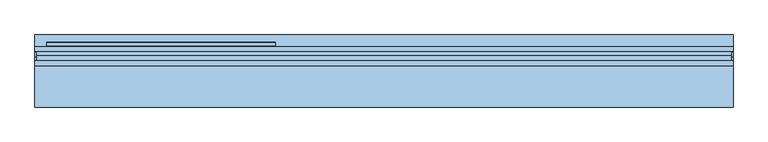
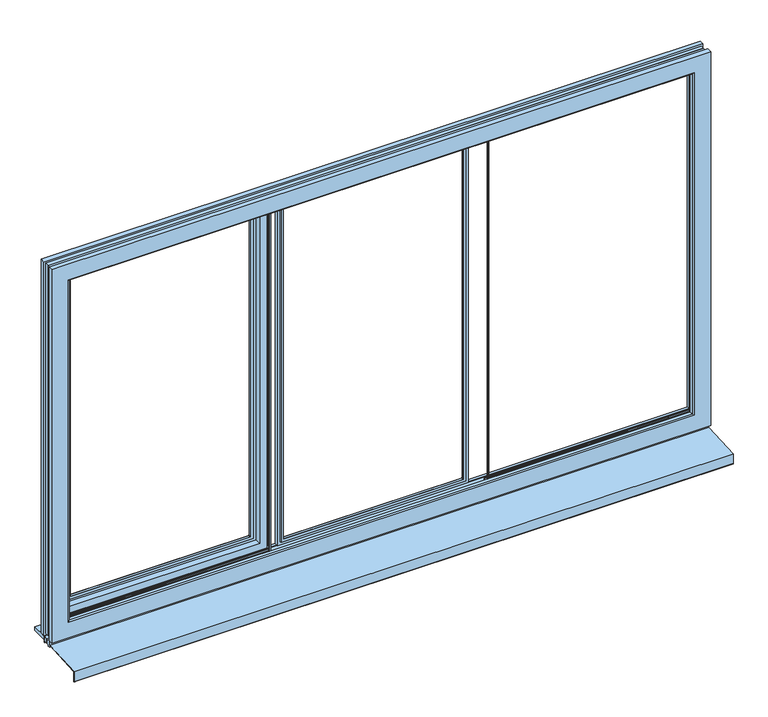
"""IFC4 building model written with IfcOpenShell, lengths in millimetres: window geometry, BZ1_Windows_Opening-Hinge_S9000_Three-Piece-Window-Turn-Tilt : Windows_Opening-Hinge_S9000_Three-Piece-Window-Turn-Tilt."""

from ifc_helpers import new_model, si_unit, point, frame, frame_2d, origin, place, context, project, spatial, polyline, circle_curve, ellipse_curve, trimmed, segment, composite_curve, outline, extrude, faceted_brep, source, transform, mapped, element, save
from ifc_brep_helpers import plane_surface, cylinder_surface, advanced_brep


def window_6c88f6a3(model_context):
    return source(origin(), model_context, "Body", "SolidModel", [
        advanced_brep(
        [(-1394.0, 107.25, 2563.9999996), (-1394.0, 107.25, 975.9999996), (-1394.0, 118.5, 975.9999996), (-1394.0, 118.5, 2563.9999996), (-1398.1, 77.5, 2568.0999996), (-1398.1, 77.5, 971.8999996), (-1398.1, 107.25, 971.8999996), (-1398.1, 107.25, 2568.0999996), (-1430.0, 103.5, 2599.9999996), (-1430.0, 103.5, 939.9999996), (-1430.0, 77.5, 939.9999996), (-1430.0, 77.5, 2599.9999996), (-1450.0, 116.0, 2619.9999996), (-1450.0, 116.0, 919.9999996), (-1450.0, 103.5, 919.9999996), (-1450.0, 103.5, 2619.9999996), (-1447.5, 118.5, 2617.4999996), (-1447.5, 118.5, 922.4999996), (-523.4, 107.25, 975.9999996), (-523.4, 118.5, 975.9999996), (-519.3, 77.5, 971.8999996), (-519.3, 107.25, 971.8999996), (-487.4, 103.5, 939.9999996), (-487.4, 77.5, 939.9999996), (-467.4, 116.0, 919.9999996), (-467.4, 103.5, 919.9999996), (-469.9, 118.5, 922.4999996), (-523.4, 107.25, 2563.9999996), (-523.4, 118.5, 2563.9999996), (-519.3, 77.5, 2568.0999996), (-519.3, 107.25, 2568.0999996), (-487.4, 103.5, 2599.9999996), (-487.4, 77.5, 2599.9999996), (-467.4, 116.0, 2619.9999996), (-467.4, 103.5, 2619.9999996), (-469.9, 118.5, 2617.4999996)],
        [
            (0, 1),
            (1, 2),
            (2, 3),
            (3, 0),
            (4, 5),
            (5, 6),
            (6, 7),
            (7, 4),
            (8, 9),
            (9, 10),
            (10, 11),
            (11, 8),
            (12, 13),
            (13, 14),
            (14, 15),
            (15, 12),
            (16, 17),
            (17, 13, ellipse_curve(frame((-1447.5, 116.0, 922.4999996), z_axis=(-0.7071067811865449, 0.0, 0.70710678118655), x_axis=(0.7071067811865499, 0.0, 0.707106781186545)), 3.5355339, 2.5)),
            (12, 16, ellipse_curve(frame((-1447.5, 116.0, 2617.4999996), z_axis=(-0.707106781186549, 0.0, -0.7071067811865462), x_axis=(-0.7071067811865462, 0.0, 0.7071067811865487)), 3.5355339, 2.5)),
            (1, 18),
            (18, 19),
            (19, 2),
            (5, 20),
            (20, 21),
            (21, 6),
            (9, 22),
            (22, 23),
            (23, 10),
            (13, 24),
            (24, 25),
            (25, 14),
            (17, 26),
            (26, 24, ellipse_curve(frame((-469.9, 116.0, 922.4999996), z_axis=(-0.7071067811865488, 0.0, -0.7071067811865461), x_axis=(-0.7071067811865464, 0.0, 0.7071067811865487)), 3.5355339, 2.5)),
            (18, 27),
            (27, 28),
            (28, 19),
            (20, 29),
            (29, 30),
            (30, 21),
            (22, 31),
            (31, 32),
            (32, 23),
            (24, 33),
            (33, 34),
            (34, 25),
            (26, 35),
            (35, 33, ellipse_curve(frame((-469.9, 116.0, 2617.4999996), z_axis=(0.7071067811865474, 0.0, -0.7071067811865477), x_axis=(-0.7071067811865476, 0.0, -0.7071067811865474)), 3.5355339, 2.5)),
            (16, 35),
            (28, 3),
            (27, 0),
            (30, 7),
            (29, 4),
            (32, 11),
            (31, 8),
            (34, 15),
            (33, 12),
        ],
        [
            plane_surface(frame((-1394.0, 118.5, 2563.9999996), z_axis=(1.0, 0.0, 0.0), x_axis=(0.0, 0.0, -1.0))),
            plane_surface(frame((-1398.1, 107.25, 2568.0999996), z_axis=(1.0, 0.0, 0.0), x_axis=(0.0, 0.0, -1.0))),
            plane_surface(frame((-1430.0, 77.5, 2599.9999996), z_axis=(-1.0, 0.0, 0.0), x_axis=(0.0, 0.0, -1.0))),
            plane_surface(frame((-1450.0, 103.5, 2619.9999996), z_axis=(-1.0, 0.0, 0.0), x_axis=(0.0, 0.0, -1.0))),
            cylinder_surface(frame((-1447.5, 116.0, 2619.9999996), z_axis=(0.0, 0.0, 1.0), x_axis=(0.0, 1.0, 0.0)), 2.5),
            plane_surface(frame((-1394.0, 118.5, 975.9999996), z_axis=(0.0, 0.0, 1.0), x_axis=(1.0, 0.0, 0.0))),
            plane_surface(frame((-1398.1, 107.25, 971.8999996), z_axis=(0.0, 0.0, 1.0), x_axis=(1.0, 0.0, 0.0))),
            plane_surface(frame((-1430.0, 77.5, 939.9999996), z_axis=(0.0, 0.0, -1.0), x_axis=(1.0, 0.0, 0.0))),
            plane_surface(frame((-1450.0, 103.5, 919.9999996), z_axis=(0.0, 0.0, -1.0), x_axis=(1.0, 0.0, 0.0))),
            cylinder_surface(frame((-1450.0, 116.0, 922.4999996), z_axis=(-1.0, 0.0, 0.0), x_axis=(0.0, 1.0, 0.0)), 2.5),
            plane_surface(frame((-523.4, 118.5, 975.9999996), z_axis=(-1.0, 0.0, 0.0), x_axis=(0.0, 0.0, 1.0))),
            plane_surface(frame((-519.3, 107.25, 971.8999996), z_axis=(-1.0, 0.0, 0.0), x_axis=(0.0, 0.0, 1.0))),
            plane_surface(frame((-487.4, 77.5, 939.9999996), z_axis=(1.0, 0.0, 0.0), x_axis=(0.0, 0.0, 1.0))),
            plane_surface(frame((-467.4, 103.5, 919.9999996), z_axis=(1.0, 0.0, 0.0), x_axis=(0.0, 0.0, 1.0))),
            cylinder_surface(frame((-469.9, 116.0, 919.9999996), z_axis=(0.0, 0.0, -1.0), x_axis=(0.0, 1.0, 0.0)), 2.5),
            plane_surface(frame((-469.9, 118.5, 2617.4999996), z_axis=(0.0, 1.0, 0.0), x_axis=(-1.0, 0.0, 0.0))),
            plane_surface(frame((-523.4, 118.5, 2563.9999996), z_axis=(0.0, 0.0, -1.0), x_axis=(-1.0, 0.0, 0.0))),
            plane_surface(frame((-523.4, 107.25, 2563.9999996), z_axis=(0.0, -1.0, 0.0), x_axis=(-1.0, 0.0, 0.0))),
            plane_surface(frame((-519.3, 107.25, 2568.0999996), z_axis=(0.0, 0.0, -1.0), x_axis=(-1.0, 0.0, 0.0))),
            plane_surface(frame((-519.3, 77.5, 2568.0999996), z_axis=(0.0, -1.0, 0.0), x_axis=(-1.0, 0.0, 0.0))),
            plane_surface(frame((-487.4, 77.5, 2599.9999996), z_axis=(0.0, 0.0, 1.0), x_axis=(-1.0, 0.0, 0.0))),
            plane_surface(frame((-468.4, 103.5, 2618.9999996), z_axis=(0.0, -1.0, 0.0), x_axis=(-1.0, 0.0, 0.0))),
            plane_surface(frame((-467.4, 103.5, 2619.9999996), z_axis=(0.0, 0.0, 1.0), x_axis=(-1.0, 0.0, 0.0))),
            cylinder_surface(frame((-467.4, 116.0, 2617.4999996), z_axis=(1.0, 0.0, 0.0), x_axis=(0.0, 1.0, 0.0)), 2.5),
        ],
        [
            (0, [[1, 2, 3, 4]]),
            (1, [[5, 6, 7, 8]]),
            (2, [[9, 10, 11, 12]]),
            (3, [[13, 14, 15, 16]]),
            (4, [[17, 18, -13, 19]]),
            (5, [[20, 21, 22, -2]]),
            (6, [[23, 24, 25, -6]]),
            (7, [[26, 27, 28, -10]]),
            (8, [[29, 30, 31, -14]]),
            (9, [[32, 33, -29, -18]]),
            (10, [[34, 35, 36, -21]]),
            (11, [[37, 38, 39, -24]]),
            (12, [[40, 41, 42, -27]]),
            (13, [[43, 44, 45, -30]]),
            (14, [[46, 47, -43, -33]]),
            (15, [[-17, 48, -46, -32], [-3, -22, -36, 49]]),
            (16, [[50, -4, -49, -35]]),
            (17, [[-7, -25, -39, 51], [-1, -50, -34, -20]]),
            (18, [[52, -8, -51, -38]]),
            (19, [[-11, -28, -42, 53], [-5, -52, -37, -23]]),
            (20, [[54, -12, -53, -41]]),
            (21, [[-15, -31, -45, 55], [-9, -54, -40, -26]]),
            (22, [[56, -16, -55, -44]]),
            (23, [[-48, -19, -56, -47]]),
        ],
    ),
        advanced_brep(
        [(-1371.8959832, 112.5529143, 2541.8959828), (-1371.8959832, 112.5529143, 998.1040164), (-1377.6915381, 117.0, 992.3084614), (-1377.6915381, 117.0, 2547.6915377), (-1368.0012172, 98.0174497, 2538.0012168), (-1368.0012172, 98.0174497, 1001.9987824), (-1368.0012172, 96.5, 2538.0012168), (-1368.0012172, 96.5, 1001.9987824), (-1381.1432253, 101.5, 2551.1432248), (-1381.1432253, 101.5, 988.8567743), (-1379.8034793, 96.5, 990.1965203), (-1379.8034793, 96.5, 2549.8034789), (-1394.0, 101.5, 2563.9999996), (-1394.0, 117.0, 2563.9999996), (-1394.0, 117.0, 975.9999996), (-1394.0, 101.5, 975.9999996), (-545.5040168, 112.5529143, 998.1040164), (-539.7084619, 117.0, 992.3084614), (-549.3987828, 98.0174497, 1001.9987824), (-549.3987828, 96.5, 1001.9987824), (-536.2567747, 101.5, 988.8567743), (-537.5965207, 96.5, 990.1965203), (-523.4, 117.0, 975.9999996), (-523.4, 101.5, 975.9999996), (-545.5040168, 112.5529143, 2541.8959828), (-539.7084619, 117.0, 2547.6915377), (-549.3987828, 98.0174497, 2538.0012168), (-549.3987828, 96.5, 2538.0012168), (-536.2567747, 101.5, 2551.1432248), (-537.5965207, 96.5, 2549.8034789), (-523.4, 117.0, 2563.9999996), (-523.4, 101.5, 2563.9999996)],
        [
            (0, 1),
            (1, 2, ellipse_curve(frame((-1377.6915381, 111.0, 992.3084614), z_axis=(-0.7071067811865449, 0.0, 0.70710678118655), x_axis=(0.7071067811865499, 0.0, 0.707106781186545)), 8.4852814, 6.0)),
            (2, 3),
            (3, 0, ellipse_curve(frame((-1377.6915381, 111.0, 2547.6915377), z_axis=(-0.707106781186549, 0.0, -0.7071067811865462), x_axis=(-0.7071067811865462, 0.0, 0.7071067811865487)), 8.4852814, 6.0)),
            (4, 5),
            (5, 1),
            (0, 4),
            (6, 7),
            (7, 5),
            (4, 6),
            (8, 9),
            (9, 10),
            (10, 11),
            (11, 8),
            (12, 13),
            (13, 14),
            (14, 15),
            (15, 12),
            (1, 16),
            (16, 17, ellipse_curve(frame((-539.7084619, 111.0, 992.3084614), z_axis=(-0.7071067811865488, 0.0, -0.7071067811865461), x_axis=(-0.7071067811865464, 0.0, 0.7071067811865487)), 8.4852814, 6.0)),
            (17, 2),
            (5, 18),
            (18, 16),
            (7, 19),
            (19, 18),
            (9, 20),
            (20, 21),
            (21, 10),
            (14, 22),
            (22, 23),
            (23, 15),
            (16, 24),
            (24, 25, ellipse_curve(frame((-539.7084619, 111.0, 2547.6915377), z_axis=(0.7071067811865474, 0.0, -0.7071067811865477), x_axis=(-0.7071067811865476, 0.0, -0.7071067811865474)), 8.4852814, 6.0)),
            (25, 17),
            (18, 26),
            (26, 24),
            (19, 27),
            (27, 26),
            (20, 28),
            (28, 29),
            (29, 21),
            (22, 30),
            (30, 31),
            (31, 23),
            (24, 0),
            (3, 25),
            (26, 4),
            (27, 6),
            (29, 11),
            (28, 8),
            (31, 12),
            (30, 13),
        ],
        [
            cylinder_surface(frame((-1377.6915381, 111.0, 2619.9999996), z_axis=(0.0, 0.0, 1.0), x_axis=(0.9659258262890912, 0.2588190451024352, 0.0)), 6.0),
            plane_surface(frame((-1371.8959832, 112.5529143, 2541.8959828), z_axis=(0.9659258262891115, 0.25881904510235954, 0.0), x_axis=(0.0, 0.0, -1.0))),
            plane_surface(frame((-1368.0012172, 98.0174497, 2538.0012168), z_axis=(1.0, 0.0, 0.0), x_axis=(0.0, 0.0, -1.0))),
            plane_surface(frame((-1379.8034793, 96.5, 2549.8034789), z_axis=(-0.9659258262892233, -0.2588190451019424, 0.0), x_axis=(0.0, 0.0, -1.0))),
            plane_surface(frame((-1394.0, 116.0, 2563.9999996), z_axis=(-1.0, 0.0, 0.0), x_axis=(0.0, 0.0, -1.0))),
            cylinder_surface(frame((-1450.0, 111.0, 992.3084614), z_axis=(-1.0, 0.0, 0.0), x_axis=(0.0, 0.2588190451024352, 0.9659258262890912)), 6.0),
            plane_surface(frame((-1371.8959832, 112.5529143, 998.1040164), z_axis=(0.0, 0.25881904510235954, 0.9659258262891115), x_axis=(1.0, 0.0, 0.0))),
            plane_surface(frame((-1368.0012172, 98.0174497, 1001.9987824), z_axis=(0.0, 0.0, 1.0), x_axis=(1.0, 0.0, 0.0))),
            plane_surface(frame((-1379.8034793, 96.5, 990.1965203), z_axis=(0.0, -0.2588190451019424, -0.9659258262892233), x_axis=(1.0, 0.0, 0.0))),
            plane_surface(frame((-1394.0, 116.0, 975.9999996), z_axis=(0.0, 0.0, -1.0), x_axis=(1.0, 0.0, 0.0))),
            cylinder_surface(frame((-539.7084619, 111.0, 919.9999996), z_axis=(0.0, 0.0, -1.0), x_axis=(-0.9659258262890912, 0.2588190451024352, 0.0)), 6.0),
            plane_surface(frame((-545.5040168, 112.5529143, 998.1040164), z_axis=(-0.9659258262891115, 0.25881904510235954, 0.0), x_axis=(0.0, 0.0, 1.0))),
            plane_surface(frame((-549.3987828, 98.0174497, 1001.9987824), z_axis=(-1.0, 0.0, 0.0), x_axis=(0.0, 0.0, 1.0))),
            plane_surface(frame((-537.5965207, 96.5, 990.1965203), z_axis=(0.9659258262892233, -0.2588190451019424, 0.0), x_axis=(0.0, 0.0, 1.0))),
            plane_surface(frame((-523.4, 116.0, 975.9999996), z_axis=(1.0, 0.0, 0.0), x_axis=(0.0, 0.0, 1.0))),
            cylinder_surface(frame((-467.4, 111.0, 2547.6915377), z_axis=(1.0, 0.0, 0.0), x_axis=(0.0, 0.2588190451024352, -0.9659258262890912)), 6.0),
            plane_surface(frame((-545.5040168, 112.5529143, 2541.8959828), z_axis=(0.0, 0.25881904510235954, -0.9659258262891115), x_axis=(-1.0, 0.0, 0.0))),
            plane_surface(frame((-549.3987828, 98.0174497, 2538.0012168), z_axis=(0.0, 0.0, -1.0), x_axis=(-1.0, 0.0, 0.0))),
            plane_surface(frame((-549.3987828, 96.5, 2538.0012168), z_axis=(0.0, -1.0, 0.0), x_axis=(-1.0, 0.0, 0.0))),
            plane_surface(frame((-537.5965207, 96.5, 2549.8034789), z_axis=(0.0, -0.2588190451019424, 0.9659258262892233), x_axis=(-1.0, 0.0, 0.0))),
            plane_surface(frame((-536.2567747, 101.5, 2551.1432248), z_axis=(0.0, -1.0, 0.0), x_axis=(-1.0, 0.0, 0.0))),
            plane_surface(frame((-523.4, 116.0, 2563.9999996), z_axis=(0.0, 0.0, 1.0), x_axis=(-1.0, 0.0, 0.0))),
            plane_surface(frame((-523.4, 117.0, 2563.9999996), z_axis=(0.0, 1.0, 0.0), x_axis=(-1.0, 0.0, 0.0))),
        ],
        [
            (0, [[1, 2, 3, 4]]),
            (1, [[5, 6, -1, 7]]),
            (2, [[8, 9, -5, 10]]),
            (3, [[11, 12, 13, 14]]),
            (4, [[15, 16, 17, 18]]),
            (5, [[19, 20, 21, -2]]),
            (6, [[22, 23, -19, -6]]),
            (7, [[24, 25, -22, -9]]),
            (8, [[26, 27, 28, -12]]),
            (9, [[29, 30, 31, -17]]),
            (10, [[32, 33, 34, -20]]),
            (11, [[35, 36, -32, -23]]),
            (12, [[37, 38, -35, -25]]),
            (13, [[39, 40, 41, -27]]),
            (14, [[42, 43, 44, -30]]),
            (15, [[45, -4, 46, -33]]),
            (16, [[47, -7, -45, -36]]),
            (17, [[48, -10, -47, -38]]),
            (18, [[-13, -28, -41, 49], [-8, -48, -37, -24]]),
            (19, [[50, -14, -49, -40]]),
            (20, [[-18, -31, -44, 51], [-11, -50, -39, -26]]),
            (21, [[52, -15, -51, -43]]),
            (22, [[-16, -52, -42, -29], [-3, -21, -34, -46]]),
        ],
    ),
        extrude(outline(polyline([(34.0, 840.0), (34.0, 870.0), (55.0, 870.0), (55.0, 848.0), (43.25, 848.0), (43.25, 840.0), (34.0, 840.0)])), frame((-1500.0, 0.0, 0.0), z_axis=(1.0, 0.0, 0.0), x_axis=(0.0, 1.0, 0.0)), (0.0, 0.0, 1.0), 3000.0),
        extrude(outline(polyline([(71.75, 840.0), (71.75, 848.0), (55.0, 848.0), (55.0, 870.0), (75.5, 870.0), (75.5, 840.0), (71.75, 840.0)])), frame((-1500.0, 0.0, 0.0), z_axis=(1.0, 0.0, 0.0), x_axis=(0.0, 1.0, 0.0)), (0.0, 0.0, 1.0), 3000.0),
        advanced_brep(
        [(1416.0, 31.47229, 2586.0), (1416.0, 31.47229, 954.0), (1418.5522708, 21.9470857, 951.4477292), (1418.5522708, 21.9470857, 2588.5522708), (1416.0, 32.5, 2586.0), (1416.0, 32.5, 954.0), (1446.1, 46.5113286, 2616.1), (1446.1, 46.5113286, 923.9), (1449.0781998, 32.5, 920.9218002), (1449.0781998, 32.5, 2619.0781998), (1446.1, 60.0, 2616.1), (1446.1, 60.0, 923.9), (1492.0, 38.5, 2662.0), (1492.0, 38.5, 878.0), (1492.0, 60.0, 878.0), (1492.0, 60.0, 2662.0), (1500.0, 17.5, 2670.0), (1500.0, 17.5, 870.0), (1500.0, 38.5, 870.0), (1500.0, 38.5, 2670.0), (1424.3478258, 17.5, 945.6521742), (1424.3478258, 17.5, 2594.3478258), (-1416.0, 31.47229, 954.0), (-1418.5522708, 21.9470857, 951.4477292), (-1416.0, 32.5, 954.0), (-1446.1, 46.5113286, 923.9), (-1449.0781998, 32.5, 920.9218002), (-1446.1, 60.0, 923.9), (-1492.0, 38.5, 878.0), (-1492.0, 60.0, 878.0), (-1500.0, 17.5, 870.0), (-1500.0, 38.5, 870.0), (-1424.3478258, 17.5, 945.6521742), (-1416.0, 31.47229, 2586.0), (-1418.5522708, 21.9470857, 2588.5522708), (-1416.0, 32.5, 2586.0), (-1446.1, 46.5113286, 2616.1), (-1449.0781998, 32.5, 2619.0781998), (-1446.1, 60.0, 2616.1), (-1492.0, 38.5, 2662.0), (-1492.0, 60.0, 2662.0), (-1500.0, 17.5, 2670.0), (-1500.0, 38.5, 2670.0), (-1424.3478258, 17.5, 2594.3478258)],
        [
            (0, 1),
            (1, 2),
            (2, 3),
            (3, 0),
            (4, 5),
            (5, 1),
            (0, 4),
            (6, 7),
            (7, 8),
            (8, 9),
            (9, 6),
            (10, 11),
            (11, 7),
            (6, 10),
            (12, 13),
            (13, 14),
            (14, 15),
            (15, 12),
            (16, 17),
            (17, 18),
            (18, 19),
            (19, 16),
            (2, 20, ellipse_curve(frame((1424.3478258, 23.5, 945.6521742), z_axis=(0.7071067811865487, 0.0, 0.7071067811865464), x_axis=(-0.7071067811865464, 0.0, 0.7071067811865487)), 8.4852814, 6.0)),
            (20, 21),
            (21, 3, ellipse_curve(frame((1424.3478258, 23.5, 2594.3478258), z_axis=(0.7071067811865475, 0.0, -0.7071067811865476), x_axis=(0.7071067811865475, 0.0, 0.7071067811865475)), 8.4852814, 6.0)),
            (1, 22),
            (22, 23),
            (23, 2),
            (5, 24),
            (24, 22),
            (7, 25),
            (25, 26),
            (26, 8),
            (11, 27),
            (27, 25),
            (13, 28),
            (28, 29),
            (29, 14),
            (17, 30),
            (30, 31),
            (31, 18),
            (23, 32, ellipse_curve(frame((-1424.3478258, 23.5, 945.6521742), z_axis=(0.7071067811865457, 0.0, -0.7071067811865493), x_axis=(0.7071067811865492, 0.0, 0.7071067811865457)), 8.4852814, 6.0)),
            (32, 20),
            (22, 33),
            (33, 34),
            (34, 23),
            (24, 35),
            (35, 33),
            (25, 36),
            (36, 37),
            (37, 26),
            (27, 38),
            (38, 36),
            (28, 39),
            (39, 40),
            (40, 29),
            (30, 41),
            (41, 42),
            (42, 31),
            (34, 43, ellipse_curve(frame((-1424.3478258, 23.5, 2594.3478258), z_axis=(-0.7071067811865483, 0.0, -0.7071067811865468), x_axis=(0.7071067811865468, 0.0, -0.7071067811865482)), 8.4852814, 6.0)),
            (43, 32),
            (33, 0),
            (3, 34),
            (35, 4),
            (37, 9),
            (36, 6),
            (38, 10),
            (40, 15),
            (39, 12),
            (42, 19),
            (41, 16),
            (43, 21),
        ],
        [
            plane_surface(frame((1418.5522708, 21.9470857, 2588.5522708), z_axis=(-0.9659258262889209, -0.25881904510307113, 0.0), x_axis=(0.0, 0.0, -1.0))),
            plane_surface(frame((1416.0, 31.47229, 2586.0), z_axis=(-1.0, 0.0, 0.0), x_axis=(0.0, 0.0, -1.0))),
            plane_surface(frame((1449.0781998, 32.5, 2619.0781998), z_axis=(-0.9781476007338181, -0.20791169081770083, 0.0), x_axis=(0.0, 0.0, -1.0))),
            plane_surface(frame((1446.1, 46.5113286, 2616.1), z_axis=(-1.0, 0.0, 0.0), x_axis=(0.0, 0.0, -1.0))),
            plane_surface(frame((1492.0, 60.0, 2662.0), z_axis=(1.0, 0.0, 0.0), x_axis=(0.0, 0.0, -1.0))),
            plane_surface(frame((1500.0, 38.5, 2670.0), z_axis=(1.0, 0.0, 0.0), x_axis=(0.0, 0.0, -1.0))),
            cylinder_surface(frame((1424.3478258, 23.5, 2670.0), z_axis=(0.0, 0.0, 1.0), x_axis=(0.0, -1.0, 0.0)), 6.0),
            plane_surface(frame((1418.5522708, 21.9470857, 951.4477292), z_axis=(0.0, -0.25881904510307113, 0.9659258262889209), x_axis=(-1.0, 0.0, 0.0))),
            plane_surface(frame((1416.0, 31.47229, 954.0), z_axis=(0.0, 0.0, 1.0), x_axis=(-1.0, 0.0, 0.0))),
            plane_surface(frame((1449.0781998, 32.5, 920.9218002), z_axis=(0.0, -0.20791169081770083, 0.9781476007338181), x_axis=(-1.0, 0.0, 0.0))),
            plane_surface(frame((1446.1, 46.5113286, 923.9), z_axis=(0.0, 0.0, 1.0), x_axis=(-1.0, 0.0, 0.0))),
            plane_surface(frame((1492.0, 60.0, 878.0), z_axis=(0.0, 0.0, -1.0), x_axis=(-1.0, 0.0, 0.0))),
            plane_surface(frame((1500.0, 38.5, 870.0), z_axis=(0.0, 0.0, -1.0), x_axis=(-1.0, 0.0, 0.0))),
            cylinder_surface(frame((1500.0, 23.5, 945.6521742), z_axis=(1.0, 0.0, 0.0), x_axis=(0.0, -1.0, 0.0)), 6.0),
            plane_surface(frame((-1418.5522708, 21.9470857, 951.4477292), z_axis=(0.9659258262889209, -0.25881904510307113, 0.0), x_axis=(0.0, 0.0, 1.0))),
            plane_surface(frame((-1416.0, 31.47229, 954.0), z_axis=(1.0, 0.0, 0.0), x_axis=(0.0, 0.0, 1.0))),
            plane_surface(frame((-1449.0781998, 32.5, 920.9218002), z_axis=(0.9781476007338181, -0.20791169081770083, 0.0), x_axis=(0.0, 0.0, 1.0))),
            plane_surface(frame((-1446.1, 46.5113286, 923.9), z_axis=(1.0, 0.0, 0.0), x_axis=(0.0, 0.0, 1.0))),
            plane_surface(frame((-1492.0, 60.0, 878.0), z_axis=(-1.0, 0.0, 0.0), x_axis=(0.0, 0.0, 1.0))),
            plane_surface(frame((-1500.0, 38.5, 870.0), z_axis=(-1.0, 0.0, 0.0), x_axis=(0.0, 0.0, 1.0))),
            cylinder_surface(frame((-1424.3478258, 23.5, 870.0), z_axis=(0.0, 0.0, -1.0), x_axis=(0.0, -1.0, 0.0)), 6.0),
            plane_surface(frame((-1418.5522708, 21.9470857, 2588.5522708), z_axis=(0.0, -0.25881904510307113, -0.9659258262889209), x_axis=(1.0, 0.0, 0.0))),
            plane_surface(frame((-1416.0, 31.47229, 2586.0), z_axis=(0.0, 0.0, -1.0), x_axis=(1.0, 0.0, 0.0))),
            plane_surface(frame((-1417.0, 32.5, 2587.0), z_axis=(0.0, 1.0, 0.0), x_axis=(1.0, 0.0, 0.0))),
            plane_surface(frame((-1449.0781998, 32.5, 2619.0781998), z_axis=(0.0, -0.20791169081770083, -0.9781476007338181), x_axis=(1.0, 0.0, 0.0))),
            plane_surface(frame((-1446.1, 46.5113286, 2616.1), z_axis=(0.0, 0.0, -1.0), x_axis=(1.0, 0.0, 0.0))),
            plane_surface(frame((-1446.1, 60.0, 2616.1), z_axis=(0.0, 1.0, 0.0), x_axis=(1.0, 0.0, 0.0))),
            plane_surface(frame((-1492.0, 60.0, 2662.0), z_axis=(0.0, 0.0, 1.0), x_axis=(1.0, 0.0, 0.0))),
            plane_surface(frame((-1492.0, 38.5, 2662.0), z_axis=(0.0, 1.0, 0.0), x_axis=(1.0, 0.0, 0.0))),
            plane_surface(frame((-1500.0, 38.5, 2670.0), z_axis=(0.0, 0.0, 1.0), x_axis=(1.0, 0.0, 0.0))),
            plane_surface(frame((-1500.0, 17.5, 2670.0), z_axis=(0.0, -1.0, 0.0), x_axis=(1.0, 0.0, 0.0))),
            cylinder_surface(frame((-1500.0, 23.5, 2594.3478258), z_axis=(-1.0, 0.0, 0.0), x_axis=(0.0, -1.0, 0.0)), 6.0),
        ],
        [
            (0, [[1, 2, 3, 4]]),
            (1, [[5, 6, -1, 7]]),
            (2, [[8, 9, 10, 11]]),
            (3, [[12, 13, -8, 14]]),
            (4, [[15, 16, 17, 18]]),
            (5, [[19, 20, 21, 22]]),
            (6, [[-3, 23, 24, 25]]),
            (7, [[26, 27, 28, -2]]),
            (8, [[29, 30, -26, -6]]),
            (9, [[31, 32, 33, -9]]),
            (10, [[34, 35, -31, -13]]),
            (11, [[36, 37, 38, -16]]),
            (12, [[39, 40, 41, -20]]),
            (13, [[-28, 42, 43, -23]]),
            (14, [[44, 45, 46, -27]]),
            (15, [[47, 48, -44, -30]]),
            (16, [[49, 50, 51, -32]]),
            (17, [[52, 53, -49, -35]]),
            (18, [[54, 55, 56, -37]]),
            (19, [[57, 58, 59, -40]]),
            (20, [[-46, 60, 61, -42]]),
            (21, [[62, -4, 63, -45]]),
            (22, [[64, -7, -62, -48]]),
            (23, [[-10, -33, -51, 65], [-5, -64, -47, -29]]),
            (24, [[66, -11, -65, -50]]),
            (25, [[67, -14, -66, -53]]),
            (26, [[-17, -38, -56, 68], [-12, -67, -52, -34]]),
            (27, [[69, -18, -68, -55]]),
            (28, [[-21, -41, -59, 70], [-15, -69, -54, -36]]),
            (29, [[71, -22, -70, -58]]),
            (30, [[-19, -71, -57, -39], [-24, -43, -61, 72]]),
            (31, [[-63, -25, -72, -60]]),
        ],
    ),
        faceted_brep([(1442.0, 100.0, 2612.0), (1442.0, 100.0, 928.0), (1442.0, 88.75, 928.0), (1442.0, 88.75, 2612.0), (1500.0, 100.0, 2670.0), (1500.0, 79.0, 2670.0), (1500.0, 79.0, 870.0), (1500.0, 100.0, 870.0), (1492.0, 60.0, 2662.0), (1492.0, 60.0, 878.0), (1492.0, 79.0, 878.0), (1492.0, 79.0, 2662.0), (1446.1, 88.75, 2616.1), (1446.1, 88.75, 923.9), (1446.1, 60.0, 923.9), (1446.1, 60.0, 2616.1), (-1442.0, 100.0, 928.0), (-1442.0, 88.75, 928.0), (-1500.0, 79.0, 870.0), (-1500.0, 100.0, 870.0), (-1492.0, 60.0, 878.0), (-1492.0, 79.0, 878.0), (-1446.1, 88.75, 923.9), (-1446.1, 60.0, 923.9), (-1442.0, 100.0, 2612.0), (-1442.0, 88.75, 2612.0), (-1500.0, 79.0, 2670.0), (-1500.0, 100.0, 2670.0), (-1492.0, 60.0, 2662.0), (-1492.0, 79.0, 2662.0), (-1446.1, 88.75, 2616.1), (-1446.1, 60.0, 2616.1)], [[[0, 1, 2, 3]], [[4, 5, 6, 7]], [[8, 9, 10, 11]], [[12, 13, 14, 15]], [[1, 16, 17, 2]], [[6, 18, 19, 7]], [[9, 20, 21, 10]], [[13, 22, 23, 14]], [[16, 24, 25, 17]], [[18, 26, 27, 19]], [[20, 28, 29, 21]], [[22, 30, 31, 23]], [[24, 0, 3, 25]], [[4, 7, 19, 27], [1, 0, 24, 16]], [[26, 5, 4, 27]], [[6, 5, 26, 18], [11, 10, 21, 29]], [[28, 8, 11, 29]], [[9, 8, 28, 20], [15, 14, 23, 31]], [[30, 12, 15, 31]], [[13, 12, 30, 22], [3, 2, 17, 25]]]),
        extrude(outline(polyline([(2595.0, 492.3000009), (2595.0, 1425.0), (945.0, 1425.0), (945.0, 492.3000009), (923.9, 492.3000009), (923.9, 1446.1), (2616.1, 1446.1), (2616.1, 492.3000009), (2595.0, 492.3000009)])), frame((0.0, 52.2, 0.0), z_axis=(0.0, 1.0, 0.0), x_axis=(0.0, 0.0, 1.0)), (0.0, 0.0, 1.0), 5.3),
        extrude(outline(polyline([(2616.1, -492.3), (2616.1, -1446.1), (923.9, -1446.1), (923.9, -492.3), (945.0, -492.3), (945.0, -1425.0), (2595.0, -1425.0), (2595.0, -492.3), (2616.1, -492.3)])), frame((0.0, 52.2, 0.0), z_axis=(0.0, 1.0, 0.0), x_axis=(0.0, 0.0, 1.0)), (0.0, 0.0, 1.0), 5.3),
        extrude(outline(polyline([(946.2, 1423.8), (2593.8, 1423.8), (2593.8, 493.5000009), (946.2, 493.5000009), (946.2, 1423.8)]), holes=[polyline([(2586.0, 1416.0), (954.0, 1416.0), (954.0, 501.3000009), (2586.0, 501.3000009), (2586.0, 1416.0)])]), frame((0.0, 32.5, 0.0), z_axis=(0.0, 1.0, 0.0), x_axis=(0.0, 0.0, 1.0)), (0.0, 0.0, 1.0), 3.5),
        extrude(outline(polyline([(2593.8, -1423.8), (946.2, -1423.8), (946.2, -493.5), (2593.8, -493.5), (2593.8, -1423.8)]), holes=[polyline([(954.0, -1416.0), (2586.0, -1416.0), (2586.0, -501.3), (954.0, -501.3), (954.0, -1416.0)])]), frame((0.0, 32.5, 0.0), z_axis=(0.0, 1.0, 0.0), x_axis=(0.0, 0.0, 1.0)), (0.0, 0.0, 1.0), 3.5),
        advanced_brep(
        [(435.3, 98.5, 2612.0), (435.3, 83.0, 2612.0), (435.3, 83.0, 928.0), (435.3, 98.5, 928.0), (421.1034793, 78.0, 2597.8034793), (421.1034793, 78.0, 942.1965207), (422.4432253, 83.0, 940.8567747), (422.4432253, 83.0, 2599.1432253), (409.3012172, 79.5174497, 2586.0012172), (409.3012172, 79.5174497, 953.9987828), (409.3012172, 78.0, 953.9987828), (409.3012172, 78.0, 2586.0012172), (413.1959832, 94.0529143, 2589.8959832), (413.1959832, 94.0529143, 950.1040168), (418.9915381, 98.5, 2595.6915381), (418.9915381, 98.5, 944.3084619), (-435.2999991, 83.0, 928.0), (-435.2999991, 98.5, 928.0), (-421.1034784, 78.0, 942.1965207), (-422.4432244, 83.0, 940.8567747), (-409.3012163, 79.5174497, 953.9987828), (-409.3012163, 78.0, 953.9987828), (-413.1959823, 94.0529143, 950.1040168), (-418.9915373, 98.5, 944.3084619), (-435.2999991, 83.0, 2612.0), (-435.2999991, 98.5, 2612.0), (-421.1034784, 78.0, 2597.8034793), (-422.4432244, 83.0, 2599.1432253), (-409.3012163, 79.5174497, 2586.0012172), (-409.3012163, 78.0, 2586.0012172), (-413.1959823, 94.0529143, 2589.8959832), (-418.9915373, 98.5, 2595.6915381)],
        [
            (0, 1),
            (1, 2),
            (2, 3),
            (3, 0),
            (4, 5),
            (5, 6),
            (6, 7),
            (7, 4),
            (8, 9),
            (9, 10),
            (10, 11),
            (11, 8),
            (12, 13),
            (13, 9),
            (8, 12),
            (14, 15),
            (15, 13, ellipse_curve(frame((418.9915381, 92.5, 944.3084619), z_axis=(0.7071067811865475, 0.0, 0.7071067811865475), x_axis=(-0.7071067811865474, 0.0, 0.7071067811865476)), 8.4852814, 6.0)),
            (12, 14, ellipse_curve(frame((418.9915381, 92.5, 2595.6915381), z_axis=(0.7071067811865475, 0.0, -0.7071067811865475), x_axis=(0.7071067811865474, 0.0, 0.7071067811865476)), 8.4852814, 6.0)),
            (2, 16),
            (16, 17),
            (17, 3),
            (5, 18),
            (18, 19),
            (19, 6),
            (9, 20),
            (20, 21),
            (21, 10),
            (13, 22),
            (22, 20),
            (15, 23),
            (23, 22, ellipse_curve(frame((-418.9915373, 92.5, 944.3084619), z_axis=(0.7071067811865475, 0.0, -0.7071067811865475), x_axis=(0.7071067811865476, 0.0, 0.7071067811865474)), 8.4852814, 6.0)),
            (16, 24),
            (24, 25),
            (25, 17),
            (18, 26),
            (26, 27),
            (27, 19),
            (20, 28),
            (28, 29),
            (29, 21),
            (22, 30),
            (30, 28),
            (23, 31),
            (31, 30, ellipse_curve(frame((-418.9915373, 92.5, 2595.6915381), z_axis=(-0.7071067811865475, 0.0, -0.7071067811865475), x_axis=(0.7071067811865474, 0.0, -0.7071067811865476)), 8.4852814, 6.0)),
            (25, 0),
            (14, 31),
            (24, 1),
            (27, 7),
            (26, 4),
            (29, 11),
            (28, 8),
            (30, 12),
        ],
        [
            plane_surface(frame((435.3, 97.5, 2612.0), z_axis=(1.0, 0.0, 0.0), x_axis=(0.0, 0.0, -1.0))),
            plane_surface(frame((422.4432253, 83.0, 2599.1432253), z_axis=(0.9659258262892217, -0.2588190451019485, 0.0), x_axis=(0.0, 0.0, -1.0))),
            plane_surface(frame((409.3012172, 78.0, 2586.0012172), z_axis=(-1.0, 0.0, 0.0), x_axis=(0.0, 0.0, -1.0))),
            plane_surface(frame((409.3012172, 79.5174497, 2586.0012172), z_axis=(-0.96592582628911, 0.2588190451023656, 0.0), x_axis=(0.0, 0.0, -1.0))),
            cylinder_surface(frame((418.9915381, 92.5, 2612.0), z_axis=(0.0, 0.0, 1.0), x_axis=(-0.9659258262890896, 0.25881904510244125, 0.0)), 6.0),
            plane_surface(frame((435.3, 97.5, 928.0), z_axis=(0.0, 0.0, -1.0), x_axis=(-1.0, 0.0, 0.0))),
            plane_surface(frame((422.4432253, 83.0, 940.8567747), z_axis=(0.0, -0.2588190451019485, -0.9659258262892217), x_axis=(-1.0, 0.0, 0.0))),
            plane_surface(frame((409.3012172, 78.0, 953.9987828), z_axis=(0.0, 0.0, 1.0), x_axis=(-1.0, 0.0, 0.0))),
            plane_surface(frame((409.3012172, 79.5174497, 953.9987828), z_axis=(0.0, 0.2588190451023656, 0.96592582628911), x_axis=(-1.0, 0.0, 0.0))),
            cylinder_surface(frame((435.3, 92.5, 944.3084619), z_axis=(1.0, 0.0, 0.0), x_axis=(0.0, 0.25881904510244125, 0.9659258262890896)), 6.0),
            plane_surface(frame((-435.2999991, 97.5, 928.0), z_axis=(-1.0, 0.0, 0.0), x_axis=(0.0, 0.0, 1.0))),
            plane_surface(frame((-422.4432244, 83.0, 940.8567747), z_axis=(-0.9659258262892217, -0.2588190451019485, 0.0), x_axis=(0.0, 0.0, 1.0))),
            plane_surface(frame((-409.3012163, 78.0, 953.9987828), z_axis=(1.0, 0.0, 0.0), x_axis=(0.0, 0.0, 1.0))),
            plane_surface(frame((-409.3012163, 79.5174497, 953.9987828), z_axis=(0.96592582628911, 0.2588190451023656, 0.0), x_axis=(0.0, 0.0, 1.0))),
            cylinder_surface(frame((-418.9915373, 92.5, 928.0), z_axis=(0.0, 0.0, -1.0), x_axis=(0.9659258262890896, 0.25881904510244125, 0.0)), 6.0),
            plane_surface(frame((-418.9915373, 98.5, 2595.6915381), z_axis=(0.0, 1.0, 0.0), x_axis=(1.0, 0.0, 0.0))),
            plane_surface(frame((-435.2999991, 97.5, 2612.0), z_axis=(0.0, 0.0, 1.0), x_axis=(1.0, 0.0, 0.0))),
            plane_surface(frame((-435.2999991, 83.0, 2612.0), z_axis=(0.0, -1.0, 0.0), x_axis=(1.0, 0.0, 0.0))),
            plane_surface(frame((-422.4432244, 83.0, 2599.1432253), z_axis=(0.0, -0.2588190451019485, 0.9659258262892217), x_axis=(1.0, 0.0, 0.0))),
            plane_surface(frame((-421.1034784, 78.0, 2597.8034793), z_axis=(0.0, -1.0, 0.0), x_axis=(1.0, 0.0, 0.0))),
            plane_surface(frame((-409.3012163, 78.0, 2586.0012172), z_axis=(0.0, 0.0, -1.0), x_axis=(1.0, 0.0, 0.0))),
            plane_surface(frame((-409.3012163, 79.5174497, 2586.0012172), z_axis=(0.0, 0.2588190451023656, -0.96592582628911), x_axis=(1.0, 0.0, 0.0))),
            cylinder_surface(frame((-435.2999991, 92.5, 2595.6915381), z_axis=(-1.0, 0.0, 0.0), x_axis=(0.0, 0.25881904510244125, -0.9659258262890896)), 6.0),
        ],
        [
            (0, [[1, 2, 3, 4]]),
            (1, [[5, 6, 7, 8]]),
            (2, [[9, 10, 11, 12]]),
            (3, [[13, 14, -9, 15]]),
            (4, [[16, 17, -13, 18]]),
            (5, [[19, 20, 21, -3]]),
            (6, [[22, 23, 24, -6]]),
            (7, [[25, 26, 27, -10]]),
            (8, [[28, 29, -25, -14]]),
            (9, [[30, 31, -28, -17]]),
            (10, [[32, 33, 34, -20]]),
            (11, [[35, 36, 37, -23]]),
            (12, [[38, 39, 40, -26]]),
            (13, [[41, 42, -38, -29]]),
            (14, [[43, 44, -41, -31]]),
            (15, [[-4, -21, -34, 45], [-16, 46, -43, -30]]),
            (16, [[47, -1, -45, -33]]),
            (17, [[-2, -47, -32, -19], [-7, -24, -37, 48]]),
            (18, [[49, -8, -48, -36]]),
            (19, [[-5, -49, -35, -22], [-11, -27, -40, 50]]),
            (20, [[51, -12, -50, -39]]),
            (21, [[52, -15, -51, -42]]),
            (22, [[-46, -18, -52, -44]]),
        ],
    ),
        extrude(outline(composite_curve([segment(polyline([(32.0, 870.0), (34.0, 870.0), (34.0, 849.8218007), (-157.5, 837.8767964), (-157.5, 792.369195)]), True, "CONTINUOUS"), segment(trimmed(circle_curve(frame_2d((-158.5, 792.369195)), 1.0), [point((-157.5, 792.369195))], [point((-159.5, 792.369195))], False, "CARTESIAN"), True, "CONTINUOUS"), segment(polyline([(-159.5, 792.369195), (-159.5, 839.5549957), (32.0, 851.5), (32.0, 870.0)]), True, "CONTINUOUS")], self_intersect=False)), frame((-1500.0, 0.0, 0.0), z_axis=(1.0, 0.0, 0.0), x_axis=(0.0, 1.0, 0.0)), (0.0, 0.0, 1.0), 3000.0),
        extrude(outline(polyline([(1500.0, 150.0), (1500.0, 75.5), (-1500.0, 75.5), (-1500.0, 150.0), (1500.0, 150.0)])), frame((0.0, 0.0, 851.5), z_axis=(0.0, 0.0, 1.0), x_axis=(1.0, 0.0, 0.0)), (0.0, 0.0, 1.0), 18.5),
    ])


if __name__ == "__main__":
    model = new_model("IFC4")
    model_context = context("Model", 3, world=origin())
    ifc_project = project(units=[si_unit("LENGTHUNIT", "METRE", prefix="MILLI")], contexts=[model_context])
    site = spatial("IfcSite", under=ifc_project)
    building = spatial("IfcBuilding", under=site)
    placement = place(None, origin())
    window_shape = window_6c88f6a3(model_context)
    element("IfcWindow", 1, ObjectType="BZ1_Windows_Opening-Hinge_S9000_Three-Piece-Window-Turn-Tilt : Windows_Opening-Hinge_S9000_Three-Piece-Window-Turn-Tilt", at=placement, inside=building, context=model_context, shape_type="MappedRepresentation", body=[
        mapped(window_shape, transform((0.0, 0.0, 0.0), x_axis=(1.0, 0.0, 0.0), y_axis=(0.0, 1.0, 0.0), z_axis=(0.0, 0.0, 1.0))),
    ])
    save(model, "model.ifc")
